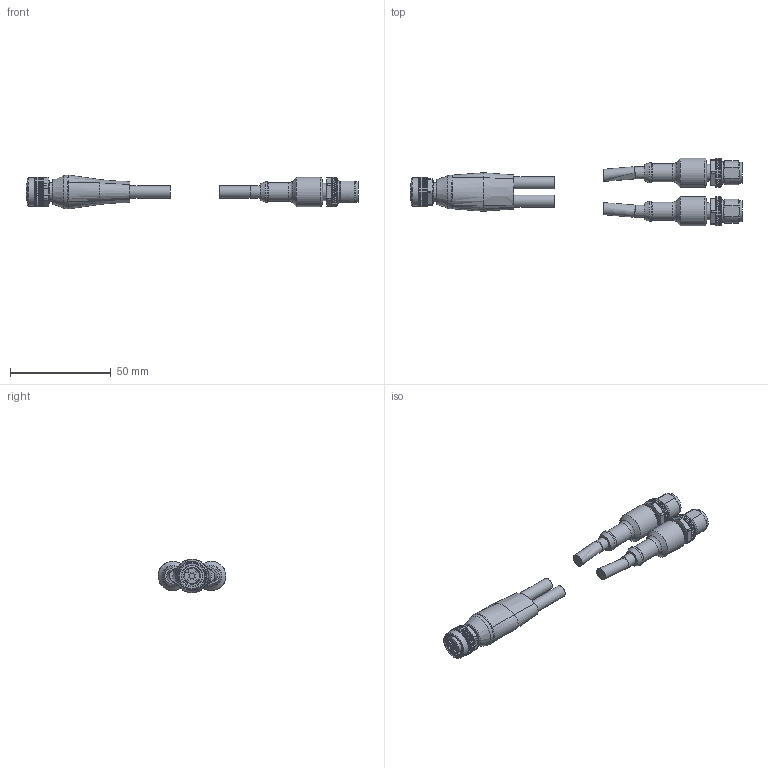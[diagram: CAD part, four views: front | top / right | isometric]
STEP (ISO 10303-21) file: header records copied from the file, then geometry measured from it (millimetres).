
FILE_DESCRIPTION( ( 'STEP AP203' ), '1' );
FILE_NAME( 'p:/temp/worker_21/temp/exporttempdir_1256_25_Ujd64/format_1/E12723.stp', '2021-03-08T10:02:18', ( 'License CC BY-ND 4.0' ), ( 'CADENAS' ), ' ', 'PARTsolutions', ' ' );
FILE_SCHEMA( ( 'CONFIG_CONTROL_DESIGN' ) );
Length unit declared in the file: millimetre
Products named in the file (4): E12723; _E12723_p1p1; _E12723_p2p2; _E12723_p3p3
Assembly tree (3 placements, depth 2):
  E12723
    _E12723_p1p1
    _E12723_p2p2
    _E12723_p3p3
Bounding box: 164.5 x 33.5 x 16.7 mm (x, y, z)
Volume: 20614.3 mm3; surface area: 9961.4 mm2
Topology: 3 solids, 5 shells, 743 faces, 2069 edges, 1352 vertices
Faces by surface type: plane 401, cylinder 253, cone 50, torus 34, bspline 5
Full cylindrical faces by diameter (mm): 6 x4, 8.2 x2, 8.3 x2, 8.5 x2, 9 x2, 9.2 x1, 10 x2, 10.106 x2, 10.4 x2, 12.4 x1, 14 x1, 14.5 x2, 16.7 x1
Entity records: 24752 total; most frequent: CARTESIAN_POINT 6495, ORIENTED_EDGE 3970, DIRECTION 3492, EDGE_CURVE 1985, VERTEX_POINT 1328, AXIS2_PLACEMENT_3D 1267, LINE 958, VECTOR 958
